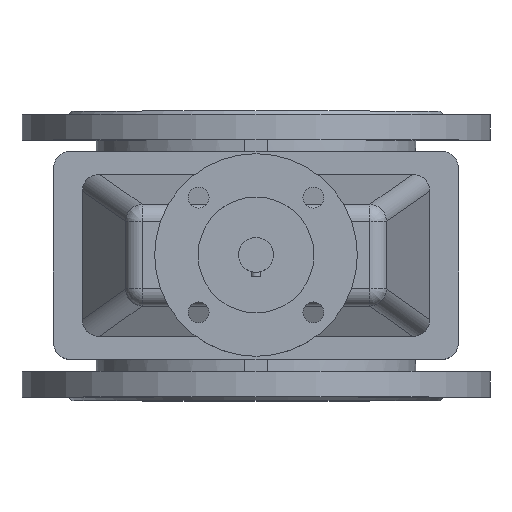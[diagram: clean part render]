
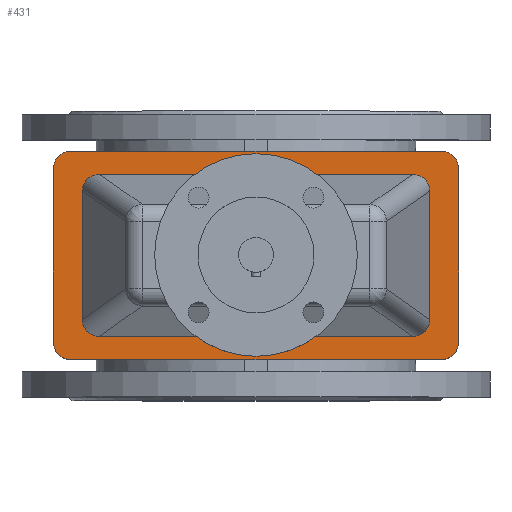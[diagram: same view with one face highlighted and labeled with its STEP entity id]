
A CAD part, top view. The second image highlights one B-rep face of the part: STEP entity #431.
In plain terms, the highlighted planar face has unit normal (0, 0, 1).
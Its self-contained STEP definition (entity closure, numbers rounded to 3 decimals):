
#431=ADVANCED_FACE('',(#1488,#1490),#1492,.T.);
#1488=FACE_BOUND('',#1489,.T.);
#1489=EDGE_LOOP('',(#3141,#3142,#3143,#3144,#3145,#3146,#3147,#3148));
#1490=FACE_BOUND('',#1491,.T.);
#1491=EDGE_LOOP('',(#3149,#3150,#3151,#3152,#3153,#3154,#3155,#3156));
#1492=PLANE('',#1493);
#1493=AXIS2_PLACEMENT_3D('',#1494,#1495,#1496);
#1494=CARTESIAN_POINT('',(0.,0.,280.));
#1495=DIRECTION('',(0.,-0.,1.));
#1496=DIRECTION('',(0.,1.,0.));
#3141=ORIENTED_EDGE('',*,*,#3543,.F.);
#3142=ORIENTED_EDGE('',*,*,#3556,.T.);
#3143=ORIENTED_EDGE('',*,*,#3555,.F.);
#3144=ORIENTED_EDGE('',*,*,#3553,.T.);
#3145=ORIENTED_EDGE('',*,*,#3551,.F.);
#3146=ORIENTED_EDGE('',*,*,#3549,.T.);
#3147=ORIENTED_EDGE('',*,*,#3547,.F.);
#3148=ORIENTED_EDGE('',*,*,#3544,.T.);
#3149=ORIENTED_EDGE('',*,*,#3581,.F.);
#3150=ORIENTED_EDGE('',*,*,#3582,.F.);
#3151=ORIENTED_EDGE('',*,*,#3583,.F.);
#3152=ORIENTED_EDGE('',*,*,#3584,.F.);
#3153=ORIENTED_EDGE('',*,*,#3585,.F.);
#3154=ORIENTED_EDGE('',*,*,#3586,.F.);
#3155=ORIENTED_EDGE('',*,*,#3587,.F.);
#3156=ORIENTED_EDGE('',*,*,#3588,.F.);
#3543=EDGE_CURVE('',#3875,#3873,#3877,.F.);
#3544=EDGE_CURVE('',#3878,#3873,#3879,.T.);
#3547=EDGE_CURVE('',#3878,#3881,#3883,.F.);
#3549=EDGE_CURVE('',#3884,#3881,#3886,.T.);
#3551=EDGE_CURVE('',#3884,#3887,#3889,.F.);
#3553=EDGE_CURVE('',#3890,#3887,#3892,.T.);
#3555=EDGE_CURVE('',#3890,#3893,#3895,.F.);
#3556=EDGE_CURVE('',#3875,#3893,#3896,.T.);
#3581=EDGE_CURVE('',#3941,#3942,#3943,.F.);
#3582=EDGE_CURVE('',#3944,#3941,#3945,.T.);
#3583=EDGE_CURVE('',#3946,#3944,#3947,.T.);
#3584=EDGE_CURVE('',#3948,#3946,#3949,.T.);
#3585=EDGE_CURVE('',#3950,#3948,#3951,.F.);
#3586=EDGE_CURVE('',#3952,#3950,#3953,.T.);
#3587=EDGE_CURVE('',#3954,#3952,#3955,.T.);
#3588=EDGE_CURVE('',#3942,#3954,#3956,.T.);
#3873=VERTEX_POINT('',#4543);
#3875=VERTEX_POINT('',#4547);
#3877=CIRCLE('',#4551,15.);
#3878=VERTEX_POINT('',#4555);
#3879=LINE('',#4556,#4557);
#3881=VERTEX_POINT('',#4562);
#3883=CIRCLE('',#4566,15.);
#3884=VERTEX_POINT('',#4570);
#3886=LINE('',#4574,#4575);
#3887=VERTEX_POINT('',#4577);
#3889=CIRCLE('',#4581,15.);
#3890=VERTEX_POINT('',#4585);
#3892=LINE('',#4589,#4590);
#3893=VERTEX_POINT('',#4592);
#3895=CIRCLE('',#4596,15.);
#3896=LINE('',#4600,#4601);
#3941=VERTEX_POINT('',#4709);
#3942=VERTEX_POINT('',#4710);
#3943=(BOUNDED_CURVE()B_SPLINE_CURVE(3,
(#4711,#4712,#4713,#4714),
.UNSPECIFIED.,.F.,.F.)B_SPLINE_CURVE_WITH_KNOTS((4,4),
(0.,1.),
.UNSPECIFIED.)CURVE()GEOMETRIC_REPRESENTATION_ITEM()RATIONAL_B_SPLINE_CURVE((1.,
0.815,0.815,1.))REPRESENTATION_ITEM(''));
#3944=VERTEX_POINT('',#4715);
#3945=LINE('',#4716,#4717);
#3946=VERTEX_POINT('',#4719);
#3947=(BOUNDED_CURVE()B_SPLINE_CURVE(3,
(#4720,#4721,#4722,#4723),
.UNSPECIFIED.,.F.,.F.)B_SPLINE_CURVE_WITH_KNOTS((4,4),
(0.,1.),
.UNSPECIFIED.)CURVE()GEOMETRIC_REPRESENTATION_ITEM()RATIONAL_B_SPLINE_CURVE((1.,
0.815,0.815,1.))REPRESENTATION_ITEM(''));
#3948=VERTEX_POINT('',#4724);
#3949=LINE('',#4725,#4726);
#3950=VERTEX_POINT('',#4728);
#3951=(BOUNDED_CURVE()B_SPLINE_CURVE(3,
(#4729,#4730,#4731,#4732),
.UNSPECIFIED.,.F.,.F.)B_SPLINE_CURVE_WITH_KNOTS((4,4),
(0.,1.),
.UNSPECIFIED.)CURVE()GEOMETRIC_REPRESENTATION_ITEM()RATIONAL_B_SPLINE_CURVE((1.,
0.815,0.815,1.))REPRESENTATION_ITEM(''));
#3952=VERTEX_POINT('',#4733);
#3953=LINE('',#4734,#4735);
#3954=VERTEX_POINT('',#4737);
#3955=(BOUNDED_CURVE()B_SPLINE_CURVE(3,
(#4738,#4739,#4740,#4741),
.UNSPECIFIED.,.F.,.F.)B_SPLINE_CURVE_WITH_KNOTS((4,4),
(0.,1.),
.UNSPECIFIED.)CURVE()GEOMETRIC_REPRESENTATION_ITEM()RATIONAL_B_SPLINE_CURVE((1.,
0.815,0.815,1.))REPRESENTATION_ITEM(''));
#3956=LINE('',#4742,#4743);
#4543=CARTESIAN_POINT('',(-175.,-75.,280.));
#4547=CARTESIAN_POINT('',(-160.,-90.,280.));
#4551=AXIS2_PLACEMENT_3D('',#4552,#4553,#4554);
#4552=CARTESIAN_POINT('',(-160.,-75.,280.));
#4553=DIRECTION('',(0.,-0.,1.));
#4554=DIRECTION('',(-1.,0.,0.));
#4555=CARTESIAN_POINT('',(-175.,75.,280.));
#4556=CARTESIAN_POINT('',(-175.,75.,280.));
#4557=VECTOR('',#4558,1.);
#4558=DIRECTION('',(0.,-1.,0.));
#4562=CARTESIAN_POINT('',(-160.,90.,280.));
#4566=AXIS2_PLACEMENT_3D('',#4567,#4568,#4569);
#4567=CARTESIAN_POINT('',(-160.,75.,280.));
#4568=DIRECTION('',(0.,-0.,1.));
#4569=DIRECTION('',(0.,1.,0.));
#4570=CARTESIAN_POINT('',(160.,90.,280.));
#4574=CARTESIAN_POINT('',(160.,90.,280.));
#4575=VECTOR('',#4576,1.);
#4576=DIRECTION('',(-1.,0.,0.));
#4577=CARTESIAN_POINT('',(175.,75.,280.));
#4581=AXIS2_PLACEMENT_3D('',#4582,#4583,#4584);
#4582=CARTESIAN_POINT('',(160.,75.,280.));
#4583=DIRECTION('',(0.,-0.,1.));
#4584=DIRECTION('',(1.,0.,0.));
#4585=CARTESIAN_POINT('',(175.,-75.,280.));
#4589=CARTESIAN_POINT('',(175.,-75.,280.));
#4590=VECTOR('',#4591,1.);
#4591=DIRECTION('',(0.,1.,0.));
#4592=CARTESIAN_POINT('',(160.,-90.,280.));
#4596=AXIS2_PLACEMENT_3D('',#4597,#4598,#4599);
#4597=CARTESIAN_POINT('',(160.,-75.,280.));
#4598=DIRECTION('',(0.,-0.,1.));
#4599=DIRECTION('',(0.,-1.,0.));
#4600=CARTESIAN_POINT('',(-160.,-90.,280.));
#4601=VECTOR('',#4602,1.);
#4602=DIRECTION('',(1.,0.,0.));
#4709=CARTESIAN_POINT('',(-150.,-55.41,280.));
#4710=CARTESIAN_POINT('',(-135.19,-70.,280.));
#4711=CARTESIAN_POINT('',(-135.19,-70.,280.));
#4712=CARTESIAN_POINT('',(-143.939,-70.,280.));
#4713=CARTESIAN_POINT('',(-150.,-64.03,280.));
#4714=CARTESIAN_POINT('',(-150.,-55.41,280.));
#4715=CARTESIAN_POINT('',(-150.,55.41,280.));
#4716=CARTESIAN_POINT('',(-150.,55.41,280.));
#4717=VECTOR('',#4718,1.);
#4718=DIRECTION('',(0.,-1.,0.));
#4719=CARTESIAN_POINT('',(-135.19,70.,280.));
#4720=CARTESIAN_POINT('',(-135.19,70.,280.));
#4721=CARTESIAN_POINT('',(-143.939,70.,280.));
#4722=CARTESIAN_POINT('',(-150.,64.03,280.));
#4723=CARTESIAN_POINT('',(-150.,55.41,280.));
#4724=CARTESIAN_POINT('',(135.19,70.,280.));
#4725=CARTESIAN_POINT('',(135.19,70.,280.));
#4726=VECTOR('',#4727,1.);
#4727=DIRECTION('',(-1.,0.,0.));
#4728=CARTESIAN_POINT('',(150.,55.41,280.));
#4729=CARTESIAN_POINT('',(135.19,70.,280.));
#4730=CARTESIAN_POINT('',(143.939,70.,280.));
#4731=CARTESIAN_POINT('',(150.,64.03,280.));
#4732=CARTESIAN_POINT('',(150.,55.41,280.));
#4733=CARTESIAN_POINT('',(150.,-55.41,280.));
#4734=CARTESIAN_POINT('',(150.,-55.41,280.));
#4735=VECTOR('',#4736,1.);
#4736=DIRECTION('',(0.,1.,0.));
#4737=CARTESIAN_POINT('',(135.19,-70.,280.));
#4738=CARTESIAN_POINT('',(135.19,-70.,280.));
#4739=CARTESIAN_POINT('',(143.939,-70.,280.));
#4740=CARTESIAN_POINT('',(150.,-64.03,280.));
#4741=CARTESIAN_POINT('',(150.,-55.41,280.));
#4742=CARTESIAN_POINT('',(-135.19,-70.,280.));
#4743=VECTOR('',#4744,1.);
#4744=DIRECTION('',(1.,0.,0.));
